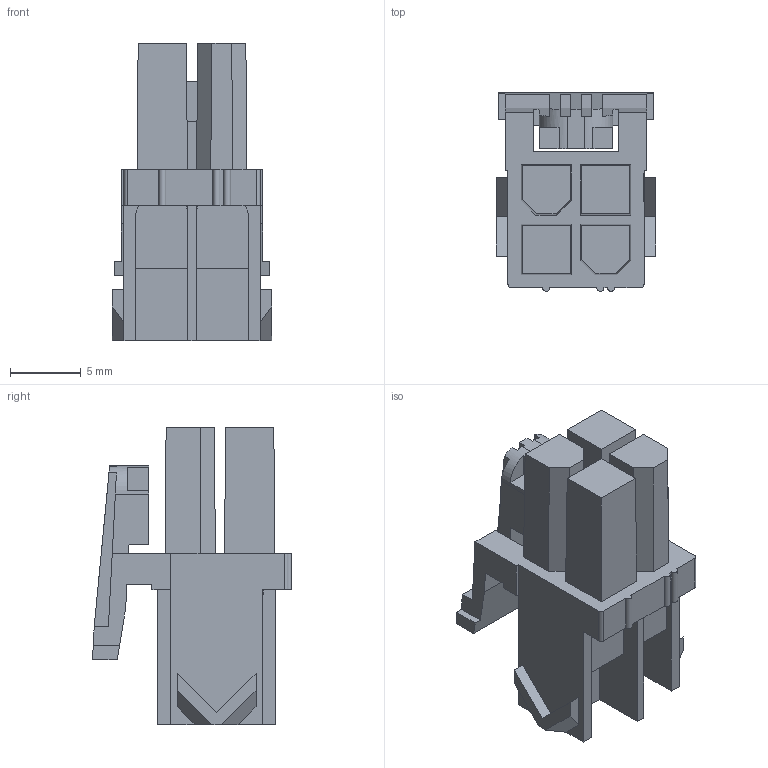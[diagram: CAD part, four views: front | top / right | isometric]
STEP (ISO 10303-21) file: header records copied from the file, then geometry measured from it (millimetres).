
FILE_DESCRIPTION((''),'2;1');
FILE_NAME('1727080004','2019-09-13T',('gga'),(''),'PRO/ENGINEER BY PARAMETRIC TECHNOLOGY CORPORATION, 2016010','PRO/ENGINEER BY PARAMETRIC TECHNOLOGY CORPORATION, 2016010','');
FILE_SCHEMA(('CONFIG_CONTROL_DESIGN'));
Length unit declared in the file: millimetre
Products named in the file (1): 1727080004
Bounding box: 11.28 x 14.05 x 21 mm (x, y, z)
Volume: 1198.9 mm3; surface area: 1661.6 mm2
Topology: 1 solids, 1 shells, 165 faces, 469 edges, 310 vertices
Faces by surface type: plane 158, cylinder 7
Entity records: 5302 total; most frequent: CARTESIAN_POINT 958, ORIENTED_EDGE 938, DIRECTION 811, EDGE_CURVE 469, VECTOR 447, LINE 447, VERTEX_POINT 310, AXIS2_PLACEMENT_3D 182
